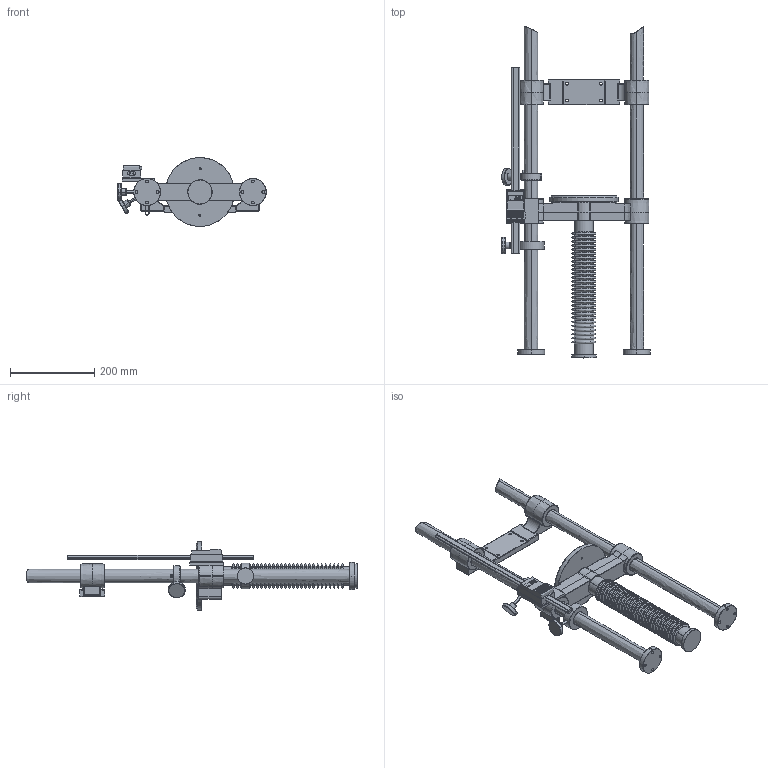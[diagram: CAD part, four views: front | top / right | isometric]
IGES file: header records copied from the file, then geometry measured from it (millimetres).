
Start section: SolidWorks IGES file using analytic representation for surfaces
Global section: file name: E:\Daten\ConDi\Projekte\KernSohn\Teststand_für_Probenmessung\Transfer\Ausgang\06_141014\Prüfstand_TVM-N_komplett_Stand14102014_01.IGS; native system: SolidWorks 2014; preprocessor: SolidWorks 2014; author: Kerstin; date: 141014.133554; units: millimetre
Bounding box: 351.69 x 785.95 x 163 mm (x, y, z)
Surface area: 702689.5 mm2 (no closed solid volume)
Topology: 0 solids, 0 shells, 1508 faces, 13639 edges, 13608 vertices
Faces by surface type: bspline 865, revolution 643
